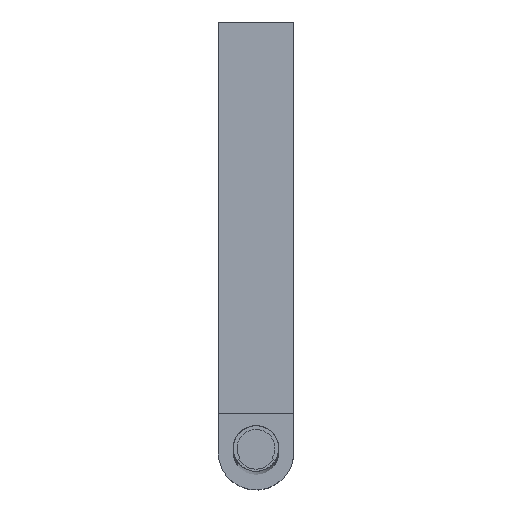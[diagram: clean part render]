
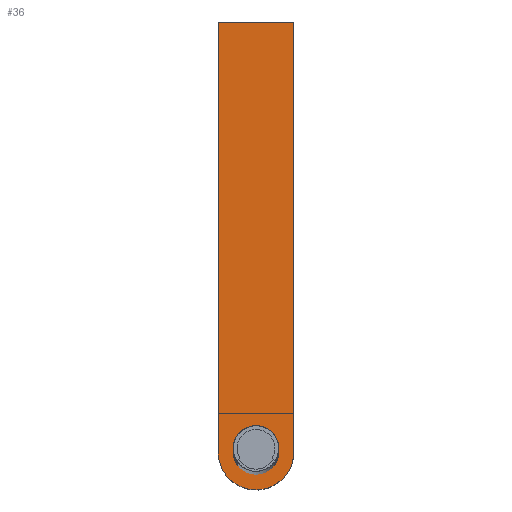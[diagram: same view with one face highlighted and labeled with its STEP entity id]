
A CAD part, top view. The second image highlights one B-rep face of the part: STEP entity #36.
In plain terms, the highlighted planar face has unit normal (0, 0, 1).
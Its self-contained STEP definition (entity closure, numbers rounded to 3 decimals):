
#36=ADVANCED_FACE('',(#62),#343,.T.);
#62=FACE_OUTER_BOUND('',#88,.T.);
#88=EDGE_LOOP('',(#126,#127,#128,#129));
#126=ORIENTED_EDGE('',*,*,#214,.F.);
#127=ORIENTED_EDGE('',*,*,#211,.F.);
#128=ORIENTED_EDGE('',*,*,#208,.F.);
#129=ORIENTED_EDGE('',*,*,#204,.F.);
#204=EDGE_CURVE('',#298,#299,#253,.T.);
#208=EDGE_CURVE('',#299,#302,#257,.T.);
#211=EDGE_CURVE('',#302,#304,#260,.T.);
#214=EDGE_CURVE('',#304,#298,#263,.T.);
#253=(
BOUNDED_CURVE()
B_SPLINE_CURVE(2,(#515,#516,#517,#518,#519),.UNSPECIFIED.,.F.,.F.)
B_SPLINE_CURVE_WITH_KNOTS((3,2,3),(-300.071,-289.089,
-194.089),.UNSPECIFIED.)
CURVE()
GEOMETRIC_REPRESENTATION_ITEM()
RATIONAL_B_SPLINE_CURVE((1.,1.,1.,1.,1.))
REPRESENTATION_ITEM('')
);
#257=(
BOUNDED_CURVE()
B_SPLINE_CURVE(2,(#529,#530,#531),.UNSPECIFIED.,.F.,.F.)
B_SPLINE_CURVE_WITH_KNOTS((3,3),(-194.089,-164.089),
 .UNSPECIFIED.)
CURVE()
GEOMETRIC_REPRESENTATION_ITEM()
RATIONAL_B_SPLINE_CURVE((1.,1.,1.))
REPRESENTATION_ITEM('')
);
#260=(
BOUNDED_CURVE()
B_SPLINE_CURVE(2,(#537,#538,#539,#540,#541),.UNSPECIFIED.,.F.,.F.)
B_SPLINE_CURVE_WITH_KNOTS((3,2,3),(-164.089,-69.089,
-58.106),.UNSPECIFIED.)
CURVE()
GEOMETRIC_REPRESENTATION_ITEM()
RATIONAL_B_SPLINE_CURVE((1.,1.,1.,1.,1.))
REPRESENTATION_ITEM('')
);
#263=(
BOUNDED_CURVE()
B_SPLINE_CURVE(2,(#549,#550,#551,#552,#553),.UNSPECIFIED.,.F.,.F.)
B_SPLINE_CURVE_WITH_KNOTS((3,2,3),(-58.106,-34.544,-10.982),
 .UNSPECIFIED.)
CURVE()
GEOMETRIC_REPRESENTATION_ITEM()
RATIONAL_B_SPLINE_CURVE((1.,0.707,1.,0.707,1.))
REPRESENTATION_ITEM('')
);
#298=VERTEX_POINT('',#507);
#299=VERTEX_POINT('',#508);
#302=VERTEX_POINT('',#511);
#304=VERTEX_POINT('',#513);
#343=PLANE('',#448);
#448=AXIS2_PLACEMENT_3D('',#505,#476,$);
#476=DIRECTION('',(0.,0.,1.));
#505=CARTESIAN_POINT('',(2069.667,613.153,666.527));
#507=CARTESIAN_POINT('',(2035.917,651.277,666.527));
#508=CARTESIAN_POINT('',(2035.917,821.268,666.527));
#511=CARTESIAN_POINT('',(2065.917,821.268,666.527));
#513=CARTESIAN_POINT('',(2065.917,651.277,666.527));
#515=CARTESIAN_POINT('',(2035.917,651.277,666.527));
#516=CARTESIAN_POINT('',(2035.917,656.768,666.527));
#517=CARTESIAN_POINT('',(2035.917,662.259,666.527));
#518=CARTESIAN_POINT('',(2035.917,741.764,666.527));
#519=CARTESIAN_POINT('',(2035.917,821.268,666.527));
#529=CARTESIAN_POINT('',(2035.917,821.268,666.527));
#530=CARTESIAN_POINT('',(2050.917,821.268,666.527));
#531=CARTESIAN_POINT('',(2065.917,821.268,666.527));
#537=CARTESIAN_POINT('',(2065.917,821.268,666.527));
#538=CARTESIAN_POINT('',(2065.917,741.764,666.527));
#539=CARTESIAN_POINT('',(2065.917,662.259,666.527));
#540=CARTESIAN_POINT('',(2065.917,656.768,666.527));
#541=CARTESIAN_POINT('',(2065.917,651.277,666.527));
#549=CARTESIAN_POINT('',(2065.917,651.277,666.527));
#550=CARTESIAN_POINT('',(2065.917,636.277,666.527));
#551=CARTESIAN_POINT('',(2050.917,636.277,666.527));
#552=CARTESIAN_POINT('',(2035.917,636.277,666.527));
#553=CARTESIAN_POINT('',(2035.917,651.277,666.527));
